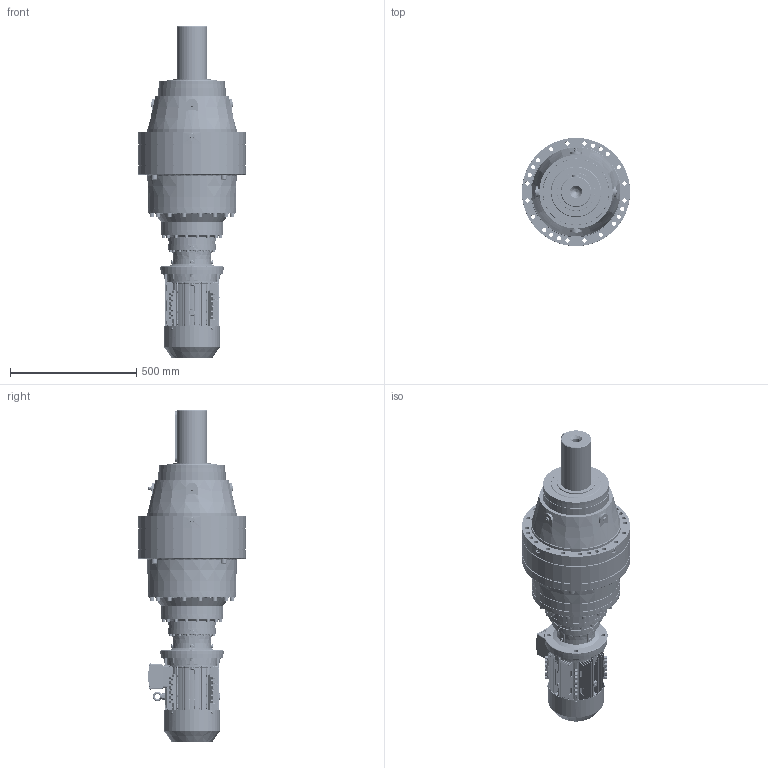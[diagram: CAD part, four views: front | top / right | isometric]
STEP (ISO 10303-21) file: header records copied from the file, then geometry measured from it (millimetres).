
FILE_DESCRIPTION (( 'STEP AP203' ), '1' );
FILE_NAME ('PVL_2904L-112M-4.STEP', '2019-05-09T10:28:56', ( '' ), ( '' ), 'SwSTEP 2.0', 'SolidWorks 2012', '' );
FILE_SCHEMA (( 'CONFIG_CONTROL_DESIGN' ));
Products named in the file (30): ML49A_Varsayìlan; FL15A_Varsayìlan; PNL_2904L_0_0_A11_B5_ML49A_FL15A_0_0_0_0_0_0_0_0_0_0_0_M1; EK2904L_Varsayìlan; P29_Varsayìlan; 11112B5_Varsayìlan; PVL_2904L-112M-4; DMX-IE3 112B5 flage; rivets for name plate gb_GB_OTHERRIVETS_TYPE93 2.5X5; MX3-112_B5; DMX-IE3 112  cable glands_1; hexagon flange head tapping screws gb_GB_SQUARE_AND_HEXAGON_TYPE137 ST4.8X9.5 C-N_1; eyebolts gb_GB_FASTENER_SCREWS_FRS M8-N_1; cross recessed pan head screws gb_GB_CROSS_SCREWS_TYPE1 M5X12-12  H type-N_1; plain parallel keys_GB_CONNECTING_PIECE_KEYS_CSK 8X50_1; DMX-IE3 112   fan cover_1; DMX-IE3 112terminal box base_1; DMX-IE3 112terminal box cover_1; spring lock washers--normal type gb_GB_FASTENER_WASHER_SW 8_1; circlips for shaft--type a large gb_GB_CONNECTING_PIECE_RING_RRA 28_1; hexagon nuts grade c gb_GB_FASTENER_NUT_SNC1 M8-N_1; hexagon socket head cap screws gb_GB_FASTENER_SCREWS_HSHCS M8X40-N_1; DMX-IE3 112M4  oil seal_1; DMX-IE3 112 fan_1; deep groove ball bearings gb_Rolling bearings 6206 GB 276-94_1; DMX-IE3 oil seal_1; DMX-IE3 112 shield_1; DMX-IE3 112 shaft_1; deep groove ball bearings gb_Rolling bearings 6306 GB 276-94_1; DMX-IE3 112M4 casing_1
Assembly tree (59 placements, depth 3):
  PVL_2904L-112M-4
    PNL_2904L_0_0_A11_B5_ML49A_FL15A_0_0_0_0_0_0_0_0_0_0_0_M1
      P29_Varsayìlan
      11112B5_Varsayìlan
      ML49A_Varsayìlan
      EK2904L_Varsayìlan
      FL15A_Varsayìlan
    MX3-112_B5
      DMX-IE3 112M4 casing_1
      DMX-IE3 112 shaft_1
      DMX-IE3 112 shield_1
      deep groove ball bearings gb_Rolling bearings 6306 GB 276-94_1
      deep groove ball bearings gb_Rolling bearings 6206 GB 276-94_1
      DMX-IE3 112M4  oil seal_1
      DMX-IE3 oil seal_1
      DMX-IE3 112 fan_1
      circlips for shaft--type a large gb_GB_CONNECTING_PIECE_RING_RRA 28_1
      spring lock washers--normal type gb_GB_FASTENER_WASHER_SW 8_1  x8
      hexagon nuts grade c gb_GB_FASTENER_NUT_SNC1 M8-N_1  x8
      hexagon socket head cap screws gb_GB_FASTENER_SCREWS_HSHCS M8X40-N_1  x8
      DMX-IE3 112   fan cover_1
      plain parallel keys_GB_CONNECTING_PIECE_KEYS_CSK 8X50_1
      DMX-IE3 112terminal box base_1
      DMX-IE3 112terminal box cover_1
      cross recessed pan head screws gb_GB_CROSS_SCREWS_TYPE1 M5X12-12  H type-N_1  x4
      eyebolts gb_GB_FASTENER_SCREWS_FRS M8-N_1
      hexagon flange head tapping screws gb_GB_SQUARE_AND_HEXAGON_TYPE137 ST4.8X9.5 C-N_1  x5
      DMX-IE3 112  cable glands_1  x2
      DMX-IE3 112B5 flage
      rivets for name plate gb_GB_OTHERRIVETS_TYPE93 2.5X5  x2
Bounding box: 428 x 428 x 1312.85 mm (x, y, z)
Volume: 65126488.9 mm3; surface area: 3486635 mm2
Topology: 65 solids, 71 shells, 9450 faces, 24581 edges, 15129 vertices
Faces by surface type: plane 3483, cylinder 2753, bspline 2026, cone 794, torus 264, sphere 130
Entity records: 342347 total; most frequent: CARTESIAN_POINT 134351, ORIENTED_EDGE 45432, DIRECTION 39758, EDGE_CURVE 22719, AXIS2_PLACEMENT_3D 14984, VERTEX_POINT 14162, LINE 9790, VECTOR 9790
